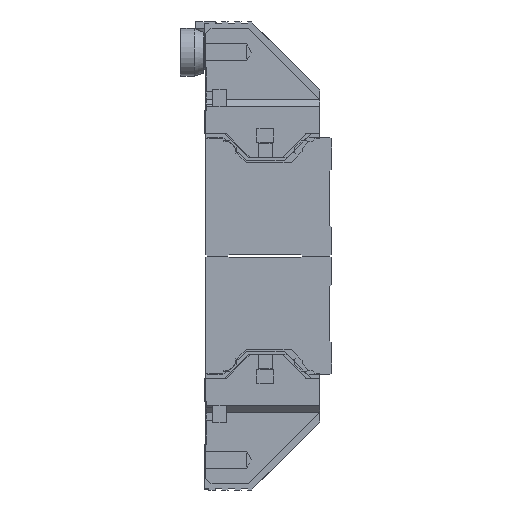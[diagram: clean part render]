
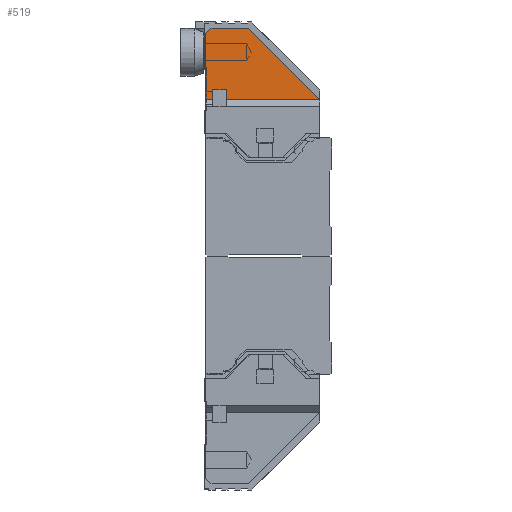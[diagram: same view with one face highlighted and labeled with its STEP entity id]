
A CAD part, left-side view. The second image highlights one B-rep face of the part: STEP entity #519.
In plain terms, the highlighted planar face has unit normal (-1, 0, 0).
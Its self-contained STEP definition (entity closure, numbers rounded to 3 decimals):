
#519 = ADVANCED_FACE( '', ( #1786 ), #1787, .T. );
#1786 = FACE_OUTER_BOUND( '', #3806, .T. );
#1787 = PLANE( '', #3807 );
#3806 = EDGE_LOOP( '', ( #6948, #6949, #6950, #6951, #6952, #6953, #6954, #6955, #6956 ) );
#3807 = AXIS2_PLACEMENT_3D( '', #6957, #6958, #6959 );
#6948 = ORIENTED_EDGE( '', *, *, #11072, .F. );
#6949 = ORIENTED_EDGE( '', *, *, #11067, .T. );
#6950 = ORIENTED_EDGE( '', *, *, #11073, .T. );
#6951 = ORIENTED_EDGE( '', *, *, #11070, .T. );
#6952 = ORIENTED_EDGE( '', *, *, #11024, .F. );
#6953 = ORIENTED_EDGE( '', *, *, #11025, .F. );
#6954 = ORIENTED_EDGE( '', *, *, #11014, .F. );
#6955 = ORIENTED_EDGE( '', *, *, #11022, .F. );
#6956 = ORIENTED_EDGE( '', *, *, #11069, .T. );
#6957 = CARTESIAN_POINT( '', ( -70.5, 24.5, 75. ) );
#6958 = DIRECTION( '', ( -1., 0., 0. ) );
#6959 = DIRECTION( '', ( 0., 0., 1. ) );
#11014 = EDGE_CURVE( '', #13253, #13255, #13256, .T. );
#11022 = EDGE_CURVE( '', #13266, #13253, #13268, .T. );
#11024 = EDGE_CURVE( '', #13269, #13110, #13271, .T. );
#11025 = EDGE_CURVE( '', #13255, #13269, #13272, .T. );
#11067 = EDGE_CURVE( '', #13333, #13335, #13337, .T. );
#11069 = EDGE_CURVE( '', #13266, #13338, #13340, .T. );
#11070 = EDGE_CURVE( '', #13341, #13110, #13342, .T. );
#11072 = EDGE_CURVE( '', #13333, #13338, #13344, .T. );
#11073 = EDGE_CURVE( '', #13335, #13341, #13345, .T. );
#13110 = VERTEX_POINT( '', #16199 );
#13253 = VERTEX_POINT( '', #16420 );
#13255 = VERTEX_POINT( '', #16423 );
#13256 = LINE( '', #16424, #16425 );
#13266 = VERTEX_POINT( '', #16441 );
#13268 = LINE( '', #16444, #16445 );
#13269 = VERTEX_POINT( '', #16446 );
#13271 = LINE( '', #16449, #16450 );
#13272 = LINE( '', #16451, #16452 );
#13333 = VERTEX_POINT( '', #16548 );
#13335 = VERTEX_POINT( '', #16551 );
#13337 = LINE( '', #16554, #16555 );
#13338 = VERTEX_POINT( '', #16556 );
#13340 = LINE( '', #16559, #16560 );
#13341 = VERTEX_POINT( '', #16561 );
#13342 = LINE( '', #16562, #16563 );
#13344 = LINE( '', #16566, #16567 );
#13345 = LINE( '', #16568, #16569 );
#16199 = CARTESIAN_POINT( '', ( -70.5, -15., 27. ) );
#16420 = CARTESIAN_POINT( '', ( -70.5, 18.5, 46.5 ) );
#16423 = CARTESIAN_POINT( '', ( -70.5, 17., 48. ) );
#16424 = CARTESIAN_POINT( '', ( -70.5, 18.5, 46.5 ) );
#16425 = VECTOR( '', #20053, 1000. );
#16441 = CARTESIAN_POINT( '', ( -70.5, 18.5, 27. ) );
#16444 = CARTESIAN_POINT( '', ( -70.5, 18.5, 17. ) );
#16445 = VECTOR( '', #20061, 1000. );
#16446 = CARTESIAN_POINT( '', ( -70.5, 6., 48. ) );
#16449 = CARTESIAN_POINT( '', ( -70.5, 6., 48. ) );
#16450 = VECTOR( '', #20063, 1000. );
#16451 = CARTESIAN_POINT( '', ( -70.5, 17., 48. ) );
#16452 = VECTOR( '', #20064, 1000. );
#16548 = CARTESIAN_POINT( '', ( -70.5, 16.5, 30. ) );
#16551 = CARTESIAN_POINT( '', ( -70.5, 12.5, 30. ) );
#16554 = CARTESIAN_POINT( '', ( -70.5, 24.5, 30. ) );
#16555 = VECTOR( '', #20114, 1000. );
#16556 = CARTESIAN_POINT( '', ( -70.5, 16.5, 27. ) );
#16559 = CARTESIAN_POINT( '', ( -70.5, 24.5, 27. ) );
#16560 = VECTOR( '', #20116, 1000. );
#16561 = CARTESIAN_POINT( '', ( -70.5, 12.5, 27. ) );
#16562 = CARTESIAN_POINT( '', ( -70.5, 24.5, 27. ) );
#16563 = VECTOR( '', #20117, 1000. );
#16566 = CARTESIAN_POINT( '', ( -70.5, 16.5, 75. ) );
#16567 = VECTOR( '', #20119, 1000. );
#16568 = CARTESIAN_POINT( '', ( -70.5, 12.5, 75. ) );
#16569 = VECTOR( '', #20120, 1000. );
#20053 = DIRECTION( '', ( 0., -0.707, 0.707 ) );
#20061 = DIRECTION( '', ( 0., 0., 1. ) );
#20063 = DIRECTION( '', ( 0., -0.707, -0.707 ) );
#20064 = DIRECTION( '', ( 0., -1., 0. ) );
#20114 = DIRECTION( '', ( 0., -1., 0. ) );
#20116 = DIRECTION( '', ( 0., -1., 0. ) );
#20117 = DIRECTION( '', ( 0., -1., 0. ) );
#20119 = DIRECTION( '', ( 0., 0., -1. ) );
#20120 = DIRECTION( '', ( 0., 0., -1. ) );
